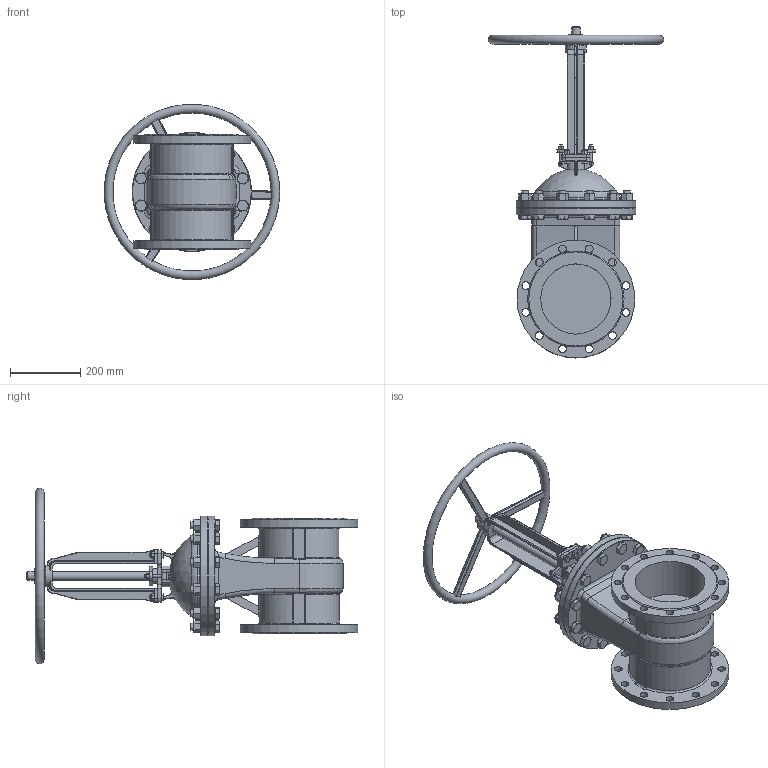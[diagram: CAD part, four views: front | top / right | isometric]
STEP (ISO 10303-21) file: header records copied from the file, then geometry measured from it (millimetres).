
FILE_DESCRIPTION(('STEP AP242'), '1');
FILE_NAME('GVWR2626M-2W-F-S Çàäâèæêà êëèíîâàÿ ñ âûäâèæíûì øòîêîì DN.ru Äó200 Ðó16', '', ('UNSPECIFIED'), ('UNSPECIFIED'), 'C3D Converter', 'C3D Toolkit', '');
FILE_SCHEMA(('AP242_MANAGED_MODEL_BASED_3D_ENGINEERING_MIM_LF { 1 0 10303 442 1 1 4 }'));
Length unit declared in the file: millimetre
Products named in the file (1): GVWR2626M-2W-F-S
Bounding box: 499.33 x 945 x 499.22 mm (x, y, z)
Surface area: 1491160.8 mm2
Topology: 12 solids, 13 shells, 1373 faces, 3317 edges, 2007 vertices
Faces by surface type: plane 600, cylinder 291, cone 289, bspline 102, torus 86, sphere 5
Full cylindrical faces by diameter (mm): 7 x4, 8 x4, 10 x8, 15 x2, 16 x4, 20 x36, 22 x24, 25 x2, 27.9 x12, 30 x9, 40 x3, 50 x1, 60 x1, 200 x2, 240 x2, 335 x2, 340 x2
Entity records: 77092 total; most frequent: CARTESIAN_POINT 35818, ORIENTED_EDGE 6247, DIRECTION 5962, EDGE_CURVE 3127, AXIS2_PLACEMENT_3D 2449, VERTEX_POINT 2002, EDGE_LOOP 1721, FACE_BOUND 1522
